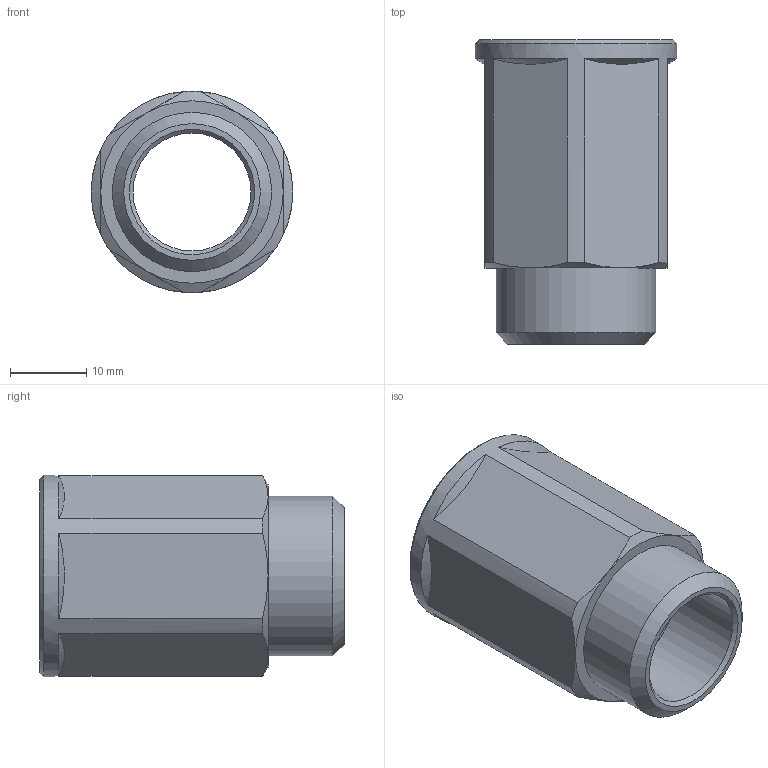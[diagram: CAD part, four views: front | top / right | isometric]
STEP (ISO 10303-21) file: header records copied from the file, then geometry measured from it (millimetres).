
FILE_DESCRIPTION(('STEP AP203'), '1');
FILE_NAME('ÂÐ.753128.018 - VTr.197.N.0430 Ôèò. ðåçüá. óäë', '2024-06-27T05:57:42', ('Boss'), (''), 'C3D Converter', 'C3D Toolkit', '');
FILE_SCHEMA(('CONFIG_CONTROL_DESIGN'));
Length unit declared in the file: millimetre
Products named in the file (1): ВР.753128.018
Bounding box: 26.5 x 40 x 26.5 mm (x, y, z)
Volume: 7469.9 mm3; surface area: 6103.7 mm2
Topology: 1 solids, 1 shells, 33 faces, 73 edges, 45 vertices
Faces by surface type: cone 16, plane 11, cylinder 5, torus 1
Full cylindrical faces by diameter (mm): 15.5 x1, 18.632 x1, 20.955 x1, 21.5 x1, 26.5 x1
Entity records: 1370 total; most frequent: CARTESIAN_POINT 649, DIRECTION 146, ORIENTED_EDGE 126, AXIS2_PLACEMENT_3D 67, EDGE_CURVE 63, EDGE_LOOP 48, VERTEX_POINT 47, ADVANCED_FACE 33
